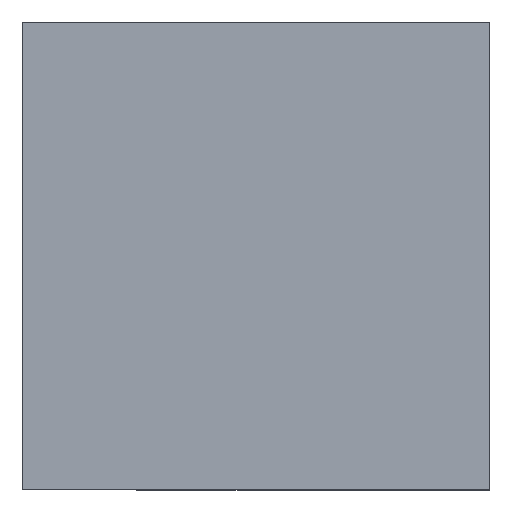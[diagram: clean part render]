
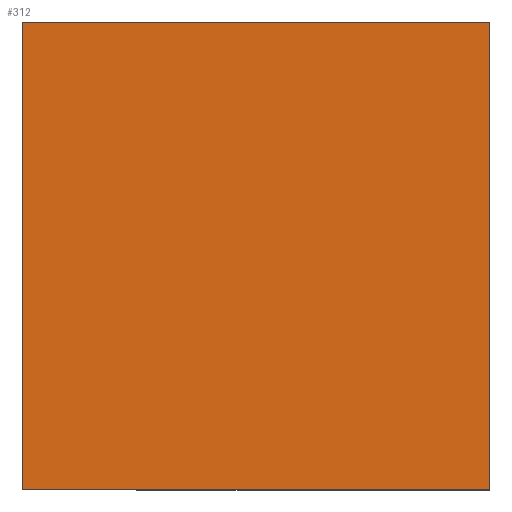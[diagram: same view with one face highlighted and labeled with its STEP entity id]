
A CAD part, top view. The second image highlights one B-rep face of the part: STEP entity #312.
In plain terms, the highlighted planar face has unit normal (0, 0, 1).
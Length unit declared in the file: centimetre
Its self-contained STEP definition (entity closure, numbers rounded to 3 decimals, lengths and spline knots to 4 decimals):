
#11 = ORIENTED_EDGE ( 'NONE', *, *, #433, .T. ) ;
#21 = CARTESIAN_POINT ( 'NONE',  ( 1000., 1000., 1000. ) ) ;
#33 = FACE_OUTER_BOUND ( 'NONE', #428, .T. ) ;
#34 = LINE ( 'NONE', #81, #340 ) ;
#62 = CARTESIAN_POINT ( 'NONE',  ( 0., 1000., 1000. ) ) ;
#73 = CARTESIAN_POINT ( 'NONE',  ( 0., 1000., 1000. ) ) ;
#81 = CARTESIAN_POINT ( 'NONE',  ( 1000., 1000., 1000. ) ) ;
#89 = AXIS2_PLACEMENT_3D ( 'NONE', #330, #511, #276 ) ;
#107 = PLANE ( 'NONE',  #89 ) ;
#114 = EDGE_CURVE ( 'NONE', #263, #348, #34, .T. ) ;
#128 = EDGE_CURVE ( 'NONE', #209, #130, #382, .T. ) ;
#130 = VERTEX_POINT ( 'NONE', #472 ) ;
#205 = CARTESIAN_POINT ( 'NONE',  ( 0., 1000., 1000. ) ) ;
#209 = VERTEX_POINT ( 'NONE', #73 ) ;
#255 = DIRECTION ( 'NONE',  ( 0., -1., 0. ) ) ;
#263 = VERTEX_POINT ( 'NONE', #372 ) ;
#276 = DIRECTION ( 'NONE',  ( 1., 0., 0. ) ) ;
#312 = ADVANCED_FACE ( 'NONE', ( #33 ), #107, .T. ) ;
#330 = CARTESIAN_POINT ( 'NONE',  ( 0., 0., 1000. ) ) ;
#340 = VECTOR ( 'NONE', #563, 100. ) ;
#345 = ORIENTED_EDGE ( 'NONE', *, *, #114, .T. ) ;
#348 = VERTEX_POINT ( 'NONE', #21 ) ;
#354 = EDGE_CURVE ( 'NONE', #130, #263, #464, .T. ) ;
#358 = ORIENTED_EDGE ( 'NONE', *, *, #128, .T. ) ;
#360 = DIRECTION ( 'NONE',  ( -1., 0., 0. ) ) ;
#366 = CARTESIAN_POINT ( 'NONE',  ( 0., 0., 1000. ) ) ;
#372 = CARTESIAN_POINT ( 'NONE',  ( 1000., 0., 1000. ) ) ;
#382 = LINE ( 'NONE', #205, #391 ) ;
#383 = VECTOR ( 'NONE', #546, 100. ) ;
#391 = VECTOR ( 'NONE', #255, 100. ) ;
#428 = EDGE_LOOP ( 'NONE', ( #358, #437, #345, #11 ) ) ;
#433 = EDGE_CURVE ( 'NONE', #348, #209, #454, .T. ) ;
#437 = ORIENTED_EDGE ( 'NONE', *, *, #354, .T. ) ;
#454 = LINE ( 'NONE', #62, #460 ) ;
#460 = VECTOR ( 'NONE', #360, 100. ) ;
#464 = LINE ( 'NONE', #366, #383 ) ;
#472 = CARTESIAN_POINT ( 'NONE',  ( 0., 0., 1000. ) ) ;
#511 = DIRECTION ( 'NONE',  ( 0., 0., 1. ) ) ;
#546 = DIRECTION ( 'NONE',  ( 1., 0., 0. ) ) ;
#563 = DIRECTION ( 'NONE',  ( 0., 1., 0. ) ) ;
